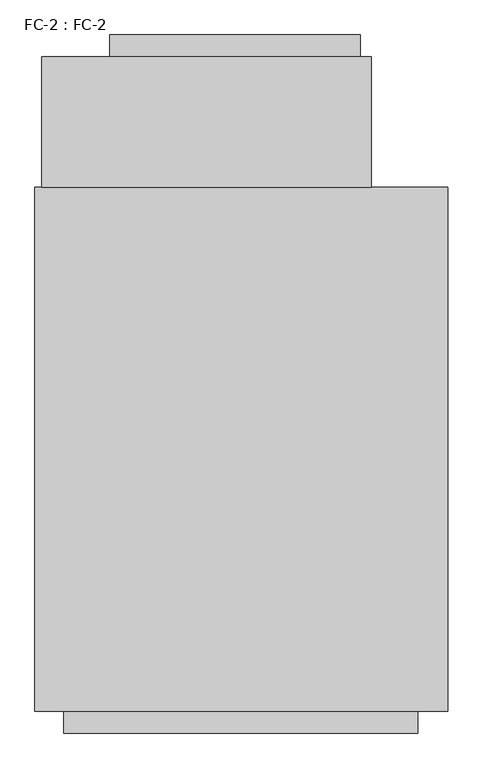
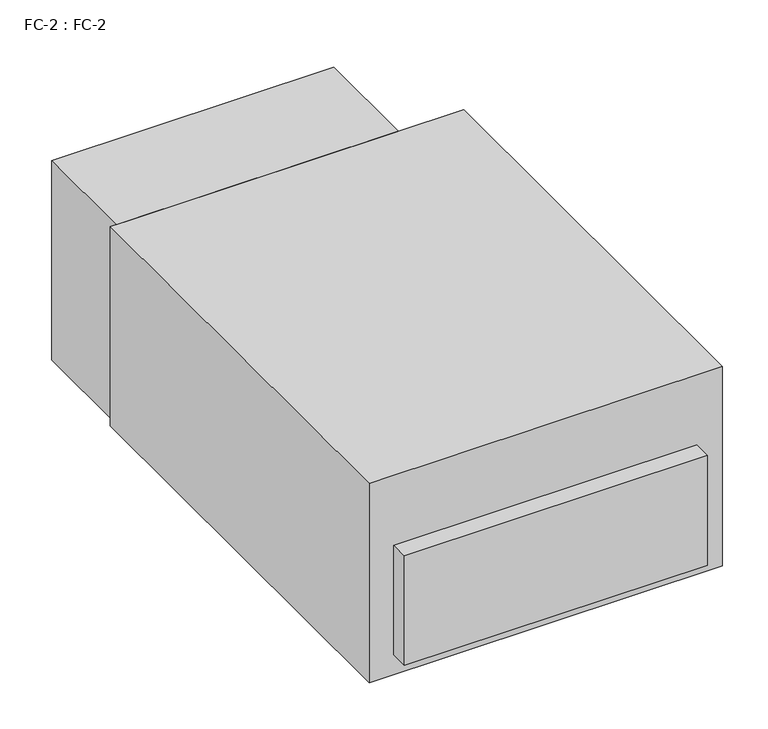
"""IFC4 building model written with IfcOpenShell, lengths in millimetres: proxy geometry, FC-2 : FC-2."""

import ifcopenshell
import ifcopenshell.guid

model = None  # the IFC model being written
_history = None  # IfcOwnerHistory: only IFC2X3 demands one
_inside = {}  # id of a spatial element -> (the spatial element, [elements in it])
_under = {}  # id of a project, library or spatial element -> (it, [spatial elements below it])
_declared = {}  # id of a project -> (the project, [libraries it declares])
_typed = {}  # id of a type object -> (the type object, [elements of that type])
_made_of = {}  # id of a material, layer set ... -> (it, [elements and type objects made of it])


def new_model(schema):
    """Start an empty IFC model of exactly this schema.

    Asked for "IFC4X3", IfcOpenShell would pick the latest addendum, in which some entities
    have other attributes; the version numbers below select the first issue.
    IFC2X3 requires an IfcOwnerHistory on every rooted entity: one is made here for all.
    """
    global model, _history
    if schema == "IFC4X3":
        model = ifcopenshell.file(schema_version=(4, 3, 0, 0))
    else:
        model = ifcopenshell.file(schema=schema)
    _inside.clear()
    _under.clear()
    _declared.clear()
    _typed.clear()
    _made_of.clear()
    _history = None
    if model.schema == "IFC2X3":
        org = make("IfcOrganization", Name="unknown")
        user = make(
            "IfcPersonAndOrganization",
            ThePerson=make("IfcPerson", FamilyName="unknown"),
            TheOrganization=org,
        )
        app = make(
            "IfcApplication",
            ApplicationDeveloper=org,
            Version="unknown",
            ApplicationFullName="unknown",
            ApplicationIdentifier="unknown",
        )
        _history = make(
            "IfcOwnerHistory",
            OwningUser=user,
            OwningApplication=app,
            ChangeAction="ADDED",
            CreationDate=0,
        )
    return model


def make(cls, **values):
    """One entity of the class cls with the attributes given. An attribute that is None is left unset."""
    return model.create_entity(
        cls, **{name: value for name, value in values.items() if value is not None}
    )


def rooted(cls, **values):
    """An entity with a GlobalId (a new one), such as an element, a storey or a relation."""
    return make(cls, GlobalId=ifcopenshell.guid.new(), OwnerHistory=_history, **values)


def si_unit(unit_type, name, prefix=None):
    """IfcSIUnit, for example si_unit("LENGTHUNIT", "METRE", prefix="MILLI")."""
    return make("IfcSIUnit", UnitType=unit_type, Prefix=prefix, Name=name)


def assignment(units):
    """IfcUnitAssignment: the units of a project."""
    return None if units is None else make("IfcUnitAssignment", Units=units)


def point(xyz):
    """IfcCartesianPoint."""
    return None if xyz is None else make("IfcCartesianPoint", Coordinates=xyz)


def direction(xyz):
    """IfcDirection."""
    return None if xyz is None else make("IfcDirection", DirectionRatios=xyz)


def frame(location, z_axis=None, x_axis=None):
    """IfcAxis2Placement3D, a coordinate frame: its origin and axes. An axis left out is left unset."""
    return make(
        "IfcAxis2Placement3D",
        Location=point(location),
        Axis=direction(z_axis),
        RefDirection=direction(x_axis),
    )


def origin():
    """The frame at (0, 0, 0) with its axes left unset."""
    return frame((0.0, 0.0, 0.0))


def origin_with_axes():
    """The frame at (0, 0, 0) with the z axis (0, 0, 1) and the x axis (1, 0, 0) written out."""
    return frame((0.0, 0.0, 0.0), z_axis=(0.0, 0.0, 1.0), x_axis=(1.0, 0.0, 0.0))


def place(relative_to, where):
    """IfcLocalPlacement: puts the frame where relative to a parent placement (None: the world)."""
    return make(
        "IfcLocalPlacement", PlacementRelTo=relative_to, RelativePlacement=where
    )


def context(
    kind, dimensions, precision=None, world=None, true_north=None, identifier=None
):
    """IfcGeometricRepresentationContext, for example the 3D "Model" context."""
    return make(
        "IfcGeometricRepresentationContext",
        ContextIdentifier=identifier,
        ContextType=kind,
        CoordinateSpaceDimension=dimensions,
        Precision=precision,
        WorldCoordinateSystem=world,
        TrueNorth=true_north,
    )


def project(units=None, contexts=None):
    """IfcProject with its units and contexts."""
    return rooted(
        "IfcProject",
        Name="project",
        RepresentationContexts=contexts,
        UnitsInContext=assignment(units),
    )


def spatial(cls, under=None, at=None, **own):
    """A site, building, storey or space (cls), placed at a placement, below another one or the project."""
    s = rooted(cls, ObjectPlacement=at, **own)
    if under is not None:
        _under.setdefault(under.id(), (under, []))[1].append(s)
    return s


def polyline(points):
    """IfcPolyline through the points."""
    return make("IfcPolyline", Points=[point(p) for p in points])


def outline(outer, holes=None, kind="AREA"):
    """IfcArbitraryClosedProfileDef: a profile drawn as a closed curve; with holes, ...WithVoids."""
    if holes is None:
        return make("IfcArbitraryClosedProfileDef", ProfileType=kind, OuterCurve=outer)
    return make(
        "IfcArbitraryProfileDefWithVoids",
        ProfileType=kind,
        OuterCurve=outer,
        InnerCurves=holes,
    )


def extrude(swept, where, along, depth):
    """IfcExtrudedAreaSolid: the profile swept, set in the frame where, extruded along a direction by depth."""
    return make(
        "IfcExtrudedAreaSolid",
        SweptArea=swept,
        Position=where,
        ExtrudedDirection=direction(along),
        Depth=depth,
    )


def shape(context_of_items, identifier, shape_type, items):
    """IfcShapeRepresentation: the items that make up one representation, for example the "Body"."""
    return make(
        "IfcShapeRepresentation",
        ContextOfItems=context_of_items,
        RepresentationIdentifier=identifier,
        RepresentationType=shape_type,
        Items=items,
    )


def source(mapping_origin, context_of_items, identifier, shape_type, items):
    """IfcRepresentationMap: a shape defined once, which mapped items show again and again."""
    return make(
        "IfcRepresentationMap",
        MappingOrigin=mapping_origin,
        MappedRepresentation=shape(context_of_items, identifier, shape_type, items),
    )


def transform(
    local_origin,
    x_axis=None,
    y_axis=None,
    z_axis=None,
    scale=None,
    scale2=None,
    scale3=None,
    uniform=True,
):
    """IfcCartesianTransformationOperator3D, or its non-uniform kind. x_axis, y_axis, z_axis: its Axis1, 2, 3."""
    if uniform:
        return make(
            "IfcCartesianTransformationOperator3D",
            Axis1=direction(x_axis),
            Axis2=direction(y_axis),
            LocalOrigin=point(local_origin),
            Scale=scale,
            Axis3=direction(z_axis),
        )
    return make(
        "IfcCartesianTransformationOperator3DnonUniform",
        Axis1=direction(x_axis),
        Axis2=direction(y_axis),
        LocalOrigin=point(local_origin),
        Scale=scale,
        Axis3=direction(z_axis),
        Scale2=scale2,
        Scale3=scale3,
    )


def mapped(mapping_source, mapping_target):
    """IfcMappedItem: shows the shape of a source again, moved by a transform."""
    return make(
        "IfcMappedItem", MappingSource=mapping_source, MappingTarget=mapping_target
    )


def made_of(thing, what):
    """Note that an element or type object is made of a material, layer set ...; save() writes the relation."""
    if what is not None:
        _made_of.setdefault(what.id(), (what, []))[1].append(thing)
    return thing


def element(
    cls,
    number,
    at=None,
    inside=None,
    cuts=None,
    type_object=None,
    material=None,
    context=None,
    identifier="Body",
    shape_type=None,
    held_by="IfcProductDefinitionShape",
    body=None,
    shapes=None,
    **own,
):
    """One element of the class cls, such as IfcWall. Its Tag is "e" and its number.

    at: its placement. inside: the storey or other place that contains it. cuts: it is an
    opening in that element (IfcRelVoidsElement). A single representation is given by context,
    identifier, shape_type and body (its items); several are given by shapes. held_by: the class
    of the entity that holds the representations. save() writes the other relations.
    """
    e = rooted(cls, Tag="e%d" % number, ObjectPlacement=at, **own)
    if body is not None:
        shapes = [shape(context, identifier, shape_type, body)]
    if shapes is not None:
        e.Representation = make(held_by, Representations=shapes)
    if inside is not None:
        _inside.setdefault(inside.id(), (inside, []))[1].append(e)
    if cuts is not None:
        rooted(
            "IfcRelVoidsElement", RelatingBuildingElement=cuts, RelatedOpeningElement=e
        )
    if type_object is not None:
        _typed.setdefault(type_object.id(), (type_object, []))[1].append(e)
    return made_of(e, material)


def aggregate(whole, parts):
    """IfcRelAggregates: a whole, such as a stair, and the parts it consists of."""
    return rooted("IfcRelAggregates", RelatingObject=whole, RelatedObjects=parts)


def save(model, path):
    """Write the relations noted so far, then the file.

    IfcRelAggregates (storeys below a building ...), IfcRelContainedInSpatialStructure (elements
    in a storey), IfcRelDefinesByType, IfcRelAssociatesMaterial and IfcRelDeclares: one each for
    every whole, place, type object, material and project.
    """
    for whole, parts in _under.values():
        aggregate(whole, parts)
    for where, things in _inside.values():
        rooted(
            "IfcRelContainedInSpatialStructure",
            RelatedElements=things,
            RelatingStructure=where,
        )
    for kind, things in _typed.values():
        rooted("IfcRelDefinesByType", RelatedObjects=things, RelatingType=kind)
    for what, things in _made_of.values():
        rooted("IfcRelAssociatesMaterial", RelatedObjects=things, RelatingMaterial=what)
    for by, libraries in _declared.values():
        rooted("IfcRelDeclares", RelatingContext=by, RelatedDefinitions=libraries)
    model.write(path)


def fc_2_fc_2_e5f3d2ac(model_context):
    return source(origin(), model_context, "Body", "SweptSolid", [
        extrude(outline(polyline([(277.8125, 965.99375), (277.8125, 915.19375), (-306.3875, 915.19375), (-306.3875, 965.99375), (277.8125, 965.99375)])), frame((0.0, 0.0, 80.9625), z_axis=(0.0, 0.0, 1.0), x_axis=(1.0, 0.0, 0.0)), (0.0, 0.0, 1.0), 412.75),
        extrude(outline(polyline([(303.2125, 915.19375), (303.2125, 610.39375), (-465.1375, 610.39375), (-465.1375, 915.19375), (303.2125, 915.19375)])), origin_with_axes(), (0.0, 0.0, 1.0), 574.675),
        extrude(outline(polyline([(411.1625, -661.19375), (-414.3375, -661.19375), (-414.3375, -610.39375), (411.1625, -610.39375), (411.1625, -661.19375)])), frame((0.0, 0.0, 57.9689181), z_axis=(0.0, 0.0, 1.0), x_axis=(1.0, 0.0, 0.0)), (0.0, 0.0, 1.0), 315.9125),
        extrude(outline(polyline([(481.0125, 610.39375), (481.0125, -610.39375), (-481.0125, -610.39375), (-481.0125, 610.39375), (481.0125, 610.39375)])), origin_with_axes(), (0.0, 0.0, 1.0), 574.675),
    ])


if __name__ == "__main__":
    model = new_model("IFC4")
    model_context = context("Model", 3, world=origin())
    ifc_project = project(units=[si_unit("LENGTHUNIT", "METRE", prefix="MILLI")], contexts=[model_context])
    site = spatial("IfcSite", under=ifc_project)
    building = spatial("IfcBuilding", under=site)
    placement = place(None, origin())
    fc_2_fc_2_shape = fc_2_fc_2_e5f3d2ac(model_context)
    element("IfcBuildingElementProxy", 1, Name="FC-2 : FC-2", ObjectType="FC-2 : FC-2", at=placement, inside=building, context=model_context, shape_type="MappedRepresentation", body=[
        mapped(fc_2_fc_2_shape, transform((0.0, 0.0, 0.0), x_axis=(1.0, 0.0, 0.0), y_axis=(0.0, 1.0, 0.0), z_axis=(0.0, 0.0, 1.0))),
    ])
    save(model, "model.ifc")
